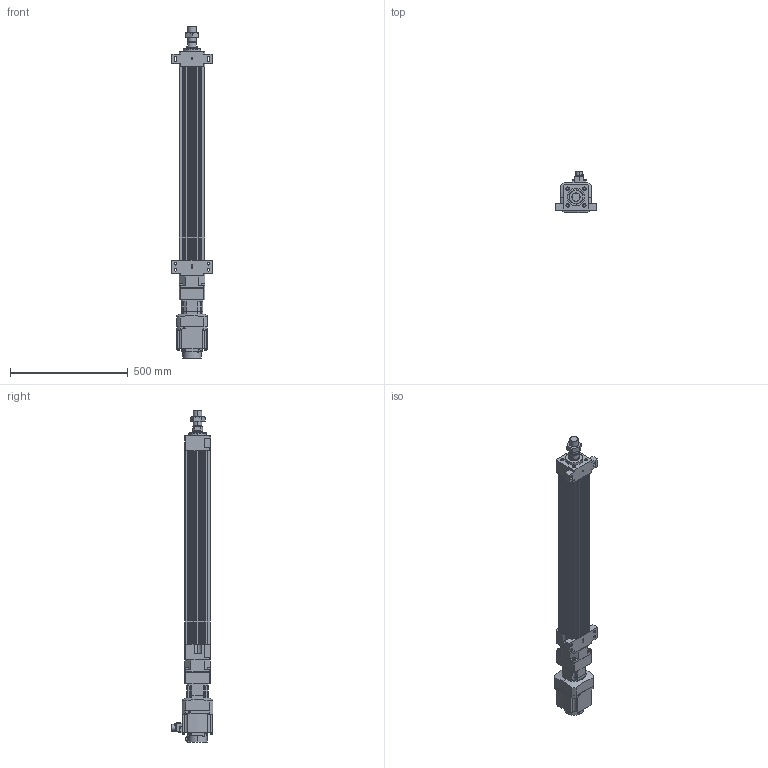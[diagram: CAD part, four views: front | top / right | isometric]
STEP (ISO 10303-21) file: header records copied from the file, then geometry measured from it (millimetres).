
FILE_DESCRIPTION (( 'STEP AP203' ), '1' );
FILE_NAME ('HES110NS(HS)-S650-W010G00-M-FFB.STEP', '2023-01-27T06:04:30', ( 'tms' ), ( '' ), 'SwSTEP 2.0', 'SolidWorks 2013', '' );
FILE_SCHEMA (( 'CONFIG_CONTROL_DESIGN' ));
Length unit declared in the file: millimetre
Products named in the file (8): P0401301004; M36X1.5P; HES110-S650-G090-FFB; AB090-003[HG-SR102B]; AB0901; HG-SR102; HES110NS(HS)-S650-W010G00-M-FFB; HES110 ROD M ST650
Assembly tree (7 placements, depth 3):
  HES110NS(HS)-S650-W010G00-M-FFB
    HES110-S650-G090-FFB
    HES110 ROD M ST650
    M36X1.5P
    AB090-003[HG-SR102B]
      AB0901
      P0401301004
    HG-SR102
Bounding box: 170 x 177.49 x 1408.5 mm (x, y, z)
Volume: 9107244.1 mm3; surface area: 1275975.2 mm2
Topology: 4 solids, 15 shells, 1189 faces, 3015 edges, 1964 vertices
Faces by surface type: plane 570, cylinder 529, cone 78, bspline 8, torus 4
Entity records: 37852 total; most frequent: CARTESIAN_POINT 7358, DIRECTION 6498, ORIENTED_EDGE 5982, EDGE_CURVE 3001, AXIS2_PLACEMENT_3D 2375, VERTEX_POINT 1964, VECTOR 1748, LINE 1748
